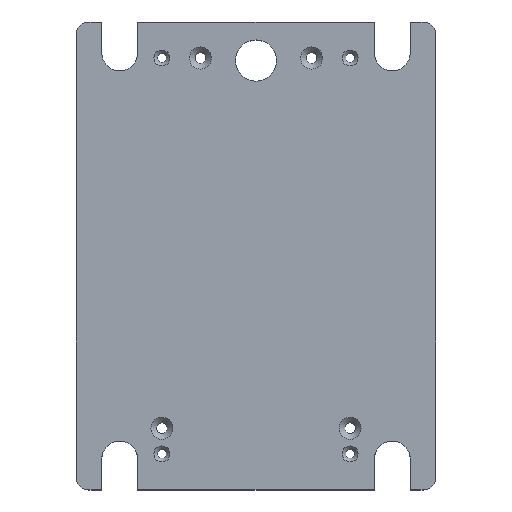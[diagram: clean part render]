
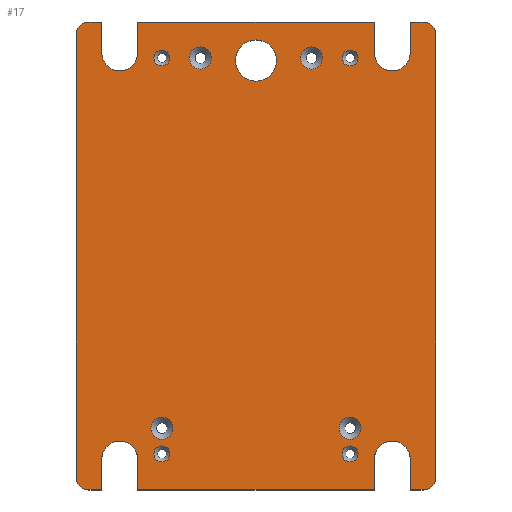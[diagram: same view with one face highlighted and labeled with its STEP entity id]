
A CAD part, top view. The second image highlights one B-rep face of the part: STEP entity #17.
In plain terms, the highlighted planar face has unit normal (0, 0, 1).
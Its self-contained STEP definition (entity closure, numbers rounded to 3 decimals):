
#17 = ADVANCED_FACE('',(#18,#29,#231,#242,#253,#264,#275,#286,#297,#308)
  ,#319,.T.);
#18 = FACE_BOUND('',#19,.T.);
#19 = EDGE_LOOP('',(#20));
#20 = ORIENTED_EDGE('',*,*,#21,.F.);
#21 = EDGE_CURVE('',#22,#22,#24,.T.);
#22 = VERTEX_POINT('',#23);
#23 = CARTESIAN_POINT('',(19.84,-33.91,16.));
#24 = CIRCLE('',#25,1.55);
#25 = AXIS2_PLACEMENT_3D('',#26,#27,#28);
#26 = CARTESIAN_POINT('',(18.29,-33.91,16.));
#27 = DIRECTION('',(0.,-0.,1.));
#28 = DIRECTION('',(1.,0.,0.));
#29 = FACE_BOUND('',#30,.T.);
#30 = EDGE_LOOP('',(#31,#41,#50,#58,#67,#75,#83,#92,#100,#108,#116,#125,
    #133,#141,#150,#158,#167,#175,#183,#192,#200,#208,#216,#225));
#31 = ORIENTED_EDGE('',*,*,#32,.F.);
#32 = EDGE_CURVE('',#33,#35,#37,.T.);
#33 = VERTEX_POINT('',#34);
#34 = CARTESIAN_POINT('',(32.49,-40.91,16.));
#35 = VERTEX_POINT('',#36);
#36 = CARTESIAN_POINT('',(29.99,-40.91,16.));
#37 = LINE('',#38,#39);
#38 = CARTESIAN_POINT('',(34.99,-40.91,16.));
#39 = VECTOR('',#40,1.);
#40 = DIRECTION('',(-1.,0.,0.));
#41 = ORIENTED_EDGE('',*,*,#42,.T.);
#42 = EDGE_CURVE('',#33,#43,#45,.T.);
#43 = VERTEX_POINT('',#44);
#44 = CARTESIAN_POINT('',(34.99,-38.41,16.));
#45 = CIRCLE('',#46,2.5);
#46 = AXIS2_PLACEMENT_3D('',#47,#48,#49);
#47 = CARTESIAN_POINT('',(32.49,-38.41,16.));
#48 = DIRECTION('',(-0.,0.,1.));
#49 = DIRECTION('',(0.,-1.,0.));
#50 = ORIENTED_EDGE('',*,*,#51,.T.);
#51 = EDGE_CURVE('',#43,#52,#54,.T.);
#52 = VERTEX_POINT('',#53);
#53 = CARTESIAN_POINT('',(34.99,47.59,16.));
#54 = LINE('',#55,#56);
#55 = CARTESIAN_POINT('',(34.99,-40.91,16.));
#56 = VECTOR('',#57,1.);
#57 = DIRECTION('',(0.,1.,0.));
#58 = ORIENTED_EDGE('',*,*,#59,.T.);
#59 = EDGE_CURVE('',#52,#60,#62,.T.);
#60 = VERTEX_POINT('',#61);
#61 = CARTESIAN_POINT('',(32.49,50.09,16.));
#62 = CIRCLE('',#63,2.5);
#63 = AXIS2_PLACEMENT_3D('',#64,#65,#66);
#64 = CARTESIAN_POINT('',(32.49,47.59,16.));
#65 = DIRECTION('',(-0.,0.,1.));
#66 = DIRECTION('',(0.,-1.,0.));
#67 = ORIENTED_EDGE('',*,*,#68,.T.);
#68 = EDGE_CURVE('',#60,#69,#71,.T.);
#69 = VERTEX_POINT('',#70);
#70 = CARTESIAN_POINT('',(29.99,50.09,16.));
#71 = LINE('',#72,#73);
#72 = CARTESIAN_POINT('',(34.99,50.09,16.));
#73 = VECTOR('',#74,1.);
#74 = DIRECTION('',(-1.,0.,0.));
#75 = ORIENTED_EDGE('',*,*,#76,.F.);
#76 = EDGE_CURVE('',#77,#69,#79,.T.);
#77 = VERTEX_POINT('',#78);
#78 = CARTESIAN_POINT('',(29.99,44.09,16.));
#79 = LINE('',#80,#81);
#80 = CARTESIAN_POINT('',(29.99,44.09,16.));
#81 = VECTOR('',#82,1.);
#82 = DIRECTION('',(0.,1.,0.));
#83 = ORIENTED_EDGE('',*,*,#84,.F.);
#84 = EDGE_CURVE('',#85,#77,#87,.T.);
#85 = VERTEX_POINT('',#86);
#86 = CARTESIAN_POINT('',(22.99,44.09,16.));
#87 = CIRCLE('',#88,3.5);
#88 = AXIS2_PLACEMENT_3D('',#89,#90,#91);
#89 = CARTESIAN_POINT('',(26.49,44.09,16.));
#90 = DIRECTION('',(0.,0.,1.));
#91 = DIRECTION('',(1.,0.,0.));
#92 = ORIENTED_EDGE('',*,*,#93,.T.);
#93 = EDGE_CURVE('',#85,#94,#96,.T.);
#94 = VERTEX_POINT('',#95);
#95 = CARTESIAN_POINT('',(22.99,50.09,16.));
#96 = LINE('',#97,#98);
#97 = CARTESIAN_POINT('',(22.99,44.09,16.));
#98 = VECTOR('',#99,1.);
#99 = DIRECTION('',(0.,1.,0.));
#100 = ORIENTED_EDGE('',*,*,#101,.T.);
#101 = EDGE_CURVE('',#94,#102,#104,.T.);
#102 = VERTEX_POINT('',#103);
#103 = CARTESIAN_POINT('',(-23.01,50.09,16.));
#104 = LINE('',#105,#106);
#105 = CARTESIAN_POINT('',(34.99,50.09,16.));
#106 = VECTOR('',#107,1.);
#107 = DIRECTION('',(-1.,0.,0.));
#108 = ORIENTED_EDGE('',*,*,#109,.F.);
#109 = EDGE_CURVE('',#110,#102,#112,.T.);
#110 = VERTEX_POINT('',#111);
#111 = CARTESIAN_POINT('',(-23.01,44.09,16.));
#112 = LINE('',#113,#114);
#113 = CARTESIAN_POINT('',(-23.01,44.09,16.));
#114 = VECTOR('',#115,1.);
#115 = DIRECTION('',(0.,1.,0.));
#116 = ORIENTED_EDGE('',*,*,#117,.F.);
#117 = EDGE_CURVE('',#118,#110,#120,.T.);
#118 = VERTEX_POINT('',#119);
#119 = CARTESIAN_POINT('',(-30.01,44.09,16.));
#120 = CIRCLE('',#121,3.5);
#121 = AXIS2_PLACEMENT_3D('',#122,#123,#124);
#122 = CARTESIAN_POINT('',(-26.51,44.09,16.));
#123 = DIRECTION('',(0.,0.,1.));
#124 = DIRECTION('',(1.,0.,0.));
#125 = ORIENTED_EDGE('',*,*,#126,.T.);
#126 = EDGE_CURVE('',#118,#127,#129,.T.);
#127 = VERTEX_POINT('',#128);
#128 = CARTESIAN_POINT('',(-30.01,50.09,16.));
#129 = LINE('',#130,#131);
#130 = CARTESIAN_POINT('',(-30.01,44.09,16.));
#131 = VECTOR('',#132,1.);
#132 = DIRECTION('',(0.,1.,0.));
#133 = ORIENTED_EDGE('',*,*,#134,.T.);
#134 = EDGE_CURVE('',#127,#135,#137,.T.);
#135 = VERTEX_POINT('',#136);
#136 = CARTESIAN_POINT('',(-32.51,50.09,16.));
#137 = LINE('',#138,#139);
#138 = CARTESIAN_POINT('',(34.99,50.09,16.));
#139 = VECTOR('',#140,1.);
#140 = DIRECTION('',(-1.,0.,0.));
#141 = ORIENTED_EDGE('',*,*,#142,.F.);
#142 = EDGE_CURVE('',#143,#135,#145,.T.);
#143 = VERTEX_POINT('',#144);
#144 = CARTESIAN_POINT('',(-35.01,47.59,16.));
#145 = CIRCLE('',#146,2.5);
#146 = AXIS2_PLACEMENT_3D('',#147,#148,#149);
#147 = CARTESIAN_POINT('',(-32.51,47.59,16.));
#148 = DIRECTION('',(-0.,-0.,-1.));
#149 = DIRECTION('',(0.,-1.,0.));
#150 = ORIENTED_EDGE('',*,*,#151,.F.);
#151 = EDGE_CURVE('',#152,#143,#154,.T.);
#152 = VERTEX_POINT('',#153);
#153 = CARTESIAN_POINT('',(-35.01,-38.41,16.));
#154 = LINE('',#155,#156);
#155 = CARTESIAN_POINT('',(-35.01,-40.91,16.));
#156 = VECTOR('',#157,1.);
#157 = DIRECTION('',(0.,1.,0.));
#158 = ORIENTED_EDGE('',*,*,#159,.F.);
#159 = EDGE_CURVE('',#160,#152,#162,.T.);
#160 = VERTEX_POINT('',#161);
#161 = CARTESIAN_POINT('',(-32.51,-40.91,16.));
#162 = CIRCLE('',#163,2.5);
#163 = AXIS2_PLACEMENT_3D('',#164,#165,#166);
#164 = CARTESIAN_POINT('',(-32.51,-38.41,16.));
#165 = DIRECTION('',(-0.,-0.,-1.));
#166 = DIRECTION('',(0.,-1.,0.));
#167 = ORIENTED_EDGE('',*,*,#168,.F.);
#168 = EDGE_CURVE('',#169,#160,#171,.T.);
#169 = VERTEX_POINT('',#170);
#170 = CARTESIAN_POINT('',(-30.01,-40.91,16.));
#171 = LINE('',#172,#173);
#172 = CARTESIAN_POINT('',(34.99,-40.91,16.));
#173 = VECTOR('',#174,1.);
#174 = DIRECTION('',(-1.,0.,0.));
#175 = ORIENTED_EDGE('',*,*,#176,.F.);
#176 = EDGE_CURVE('',#177,#169,#179,.T.);
#177 = VERTEX_POINT('',#178);
#178 = CARTESIAN_POINT('',(-30.01,-34.91,16.));
#179 = LINE('',#180,#181);
#180 = CARTESIAN_POINT('',(-30.01,-34.91,16.));
#181 = VECTOR('',#182,1.);
#182 = DIRECTION('',(0.,-1.,0.));
#183 = ORIENTED_EDGE('',*,*,#184,.F.);
#184 = EDGE_CURVE('',#185,#177,#187,.T.);
#185 = VERTEX_POINT('',#186);
#186 = CARTESIAN_POINT('',(-23.01,-34.91,16.));
#187 = CIRCLE('',#188,3.5);
#188 = AXIS2_PLACEMENT_3D('',#189,#190,#191);
#189 = CARTESIAN_POINT('',(-26.51,-34.91,16.));
#190 = DIRECTION('',(0.,0.,1.));
#191 = DIRECTION('',(-1.,0.,0.));
#192 = ORIENTED_EDGE('',*,*,#193,.T.);
#193 = EDGE_CURVE('',#185,#194,#196,.T.);
#194 = VERTEX_POINT('',#195);
#195 = CARTESIAN_POINT('',(-23.01,-40.91,16.));
#196 = LINE('',#197,#198);
#197 = CARTESIAN_POINT('',(-23.01,-34.91,16.));
#198 = VECTOR('',#199,1.);
#199 = DIRECTION('',(0.,-1.,0.));
#200 = ORIENTED_EDGE('',*,*,#201,.F.);
#201 = EDGE_CURVE('',#202,#194,#204,.T.);
#202 = VERTEX_POINT('',#203);
#203 = CARTESIAN_POINT('',(22.99,-40.91,16.));
#204 = LINE('',#205,#206);
#205 = CARTESIAN_POINT('',(34.99,-40.91,16.));
#206 = VECTOR('',#207,1.);
#207 = DIRECTION('',(-1.,0.,0.));
#208 = ORIENTED_EDGE('',*,*,#209,.F.);
#209 = EDGE_CURVE('',#210,#202,#212,.T.);
#210 = VERTEX_POINT('',#211);
#211 = CARTESIAN_POINT('',(22.99,-34.91,16.));
#212 = LINE('',#213,#214);
#213 = CARTESIAN_POINT('',(22.99,-34.91,16.));
#214 = VECTOR('',#215,1.);
#215 = DIRECTION('',(0.,-1.,0.));
#216 = ORIENTED_EDGE('',*,*,#217,.F.);
#217 = EDGE_CURVE('',#218,#210,#220,.T.);
#218 = VERTEX_POINT('',#219);
#219 = CARTESIAN_POINT('',(29.99,-34.91,16.));
#220 = CIRCLE('',#221,3.5);
#221 = AXIS2_PLACEMENT_3D('',#222,#223,#224);
#222 = CARTESIAN_POINT('',(26.49,-34.91,16.));
#223 = DIRECTION('',(0.,0.,1.));
#224 = DIRECTION('',(-1.,0.,0.));
#225 = ORIENTED_EDGE('',*,*,#226,.T.);
#226 = EDGE_CURVE('',#218,#35,#227,.T.);
#227 = LINE('',#228,#229);
#228 = CARTESIAN_POINT('',(29.99,-34.91,16.));
#229 = VECTOR('',#230,1.);
#230 = DIRECTION('',(0.,-1.,0.));
#231 = FACE_BOUND('',#232,.T.);
#232 = EDGE_LOOP('',(#233));
#233 = ORIENTED_EDGE('',*,*,#234,.F.);
#234 = EDGE_CURVE('',#235,#235,#237,.T.);
#235 = VERTEX_POINT('',#236);
#236 = CARTESIAN_POINT('',(3.99,42.59,16.));
#237 = CIRCLE('',#238,4.);
#238 = AXIS2_PLACEMENT_3D('',#239,#240,#241);
#239 = CARTESIAN_POINT('',(-0.01,42.59,16.));
#240 = DIRECTION('',(0.,0.,1.));
#241 = DIRECTION('',(1.,0.,0.));
#242 = FACE_BOUND('',#243,.T.);
#243 = EDGE_LOOP('',(#244));
#244 = ORIENTED_EDGE('',*,*,#245,.F.);
#245 = EDGE_CURVE('',#246,#246,#248,.T.);
#246 = VERTEX_POINT('',#247);
#247 = CARTESIAN_POINT('',(20.44,-28.91,16.));
#248 = CIRCLE('',#249,2.15);
#249 = AXIS2_PLACEMENT_3D('',#250,#251,#252);
#250 = CARTESIAN_POINT('',(18.29,-28.91,16.));
#251 = DIRECTION('',(0.,-0.,1.));
#252 = DIRECTION('',(1.,0.,0.));
#253 = FACE_BOUND('',#254,.T.);
#254 = EDGE_LOOP('',(#255));
#255 = ORIENTED_EDGE('',*,*,#256,.F.);
#256 = EDGE_CURVE('',#257,#257,#259,.T.);
#257 = VERTEX_POINT('',#258);
#258 = CARTESIAN_POINT('',(16.74,43.09,16.));
#259 = CIRCLE('',#260,1.55);
#260 = AXIS2_PLACEMENT_3D('',#261,#262,#263);
#261 = CARTESIAN_POINT('',(18.29,43.09,16.));
#262 = DIRECTION('',(0.,0.,1.));
#263 = DIRECTION('',(-1.,0.,0.));
#264 = FACE_BOUND('',#265,.T.);
#265 = EDGE_LOOP('',(#266));
#266 = ORIENTED_EDGE('',*,*,#267,.F.);
#267 = EDGE_CURVE('',#268,#268,#270,.T.);
#268 = VERTEX_POINT('',#269);
#269 = CARTESIAN_POINT('',(8.64,43.09,16.));
#270 = CIRCLE('',#271,2.15);
#271 = AXIS2_PLACEMENT_3D('',#272,#273,#274);
#272 = CARTESIAN_POINT('',(10.79,43.09,16.));
#273 = DIRECTION('',(0.,0.,1.));
#274 = DIRECTION('',(-1.,0.,0.));
#275 = FACE_BOUND('',#276,.T.);
#276 = EDGE_LOOP('',(#277));
#277 = ORIENTED_EDGE('',*,*,#278,.F.);
#278 = EDGE_CURVE('',#279,#279,#281,.T.);
#279 = VERTEX_POINT('',#280);
#280 = CARTESIAN_POINT('',(-16.76,-33.91,16.));
#281 = CIRCLE('',#282,1.55);
#282 = AXIS2_PLACEMENT_3D('',#283,#284,#285);
#283 = CARTESIAN_POINT('',(-18.31,-33.91,16.));
#284 = DIRECTION('',(0.,-0.,1.));
#285 = DIRECTION('',(1.,0.,0.));
#286 = FACE_BOUND('',#287,.T.);
#287 = EDGE_LOOP('',(#288));
#288 = ORIENTED_EDGE('',*,*,#289,.F.);
#289 = EDGE_CURVE('',#290,#290,#292,.T.);
#290 = VERTEX_POINT('',#291);
#291 = CARTESIAN_POINT('',(-16.16,-28.91,16.));
#292 = CIRCLE('',#293,2.15);
#293 = AXIS2_PLACEMENT_3D('',#294,#295,#296);
#294 = CARTESIAN_POINT('',(-18.31,-28.91,16.));
#295 = DIRECTION('',(0.,-0.,1.));
#296 = DIRECTION('',(1.,0.,-0.));
#297 = FACE_BOUND('',#298,.T.);
#298 = EDGE_LOOP('',(#299));
#299 = ORIENTED_EDGE('',*,*,#300,.F.);
#300 = EDGE_CURVE('',#301,#301,#303,.T.);
#301 = VERTEX_POINT('',#302);
#302 = CARTESIAN_POINT('',(-8.66,43.09,16.));
#303 = CIRCLE('',#304,2.15);
#304 = AXIS2_PLACEMENT_3D('',#305,#306,#307);
#305 = CARTESIAN_POINT('',(-10.81,43.09,16.));
#306 = DIRECTION('',(0.,-0.,1.));
#307 = DIRECTION('',(1.,0.,-0.));
#308 = FACE_BOUND('',#309,.T.);
#309 = EDGE_LOOP('',(#310));
#310 = ORIENTED_EDGE('',*,*,#311,.F.);
#311 = EDGE_CURVE('',#312,#312,#314,.T.);
#312 = VERTEX_POINT('',#313);
#313 = CARTESIAN_POINT('',(-16.76,43.09,16.));
#314 = CIRCLE('',#315,1.55);
#315 = AXIS2_PLACEMENT_3D('',#316,#317,#318);
#316 = CARTESIAN_POINT('',(-18.31,43.09,16.));
#317 = DIRECTION('',(0.,-0.,1.));
#318 = DIRECTION('',(1.,0.,0.));
#319 = PLANE('',#320);
#320 = AXIS2_PLACEMENT_3D('',#321,#322,#323);
#321 = CARTESIAN_POINT('',(34.99,-40.91,16.));
#322 = DIRECTION('',(0.,0.,1.));
#323 = DIRECTION('',(0.,1.,0.));
